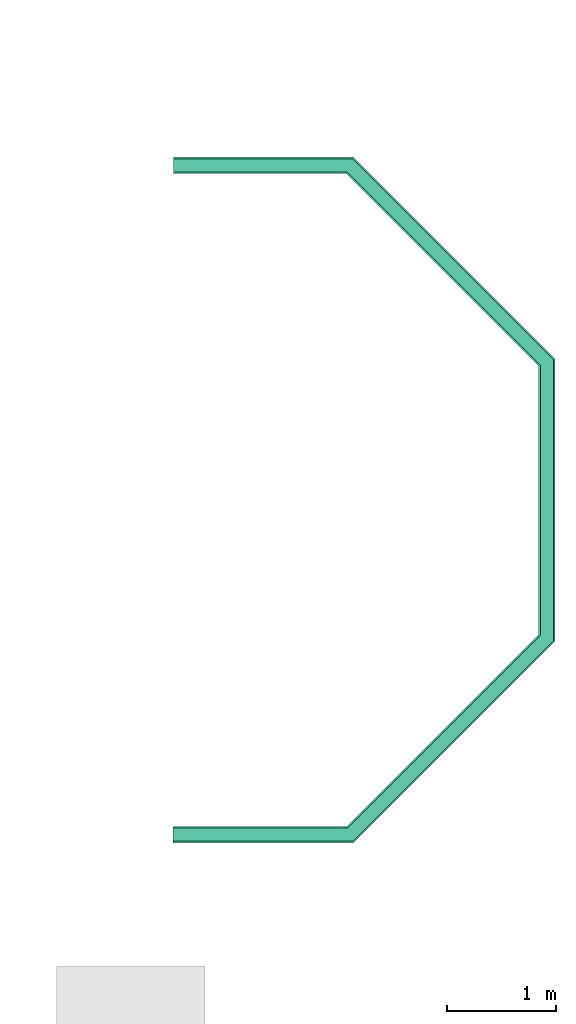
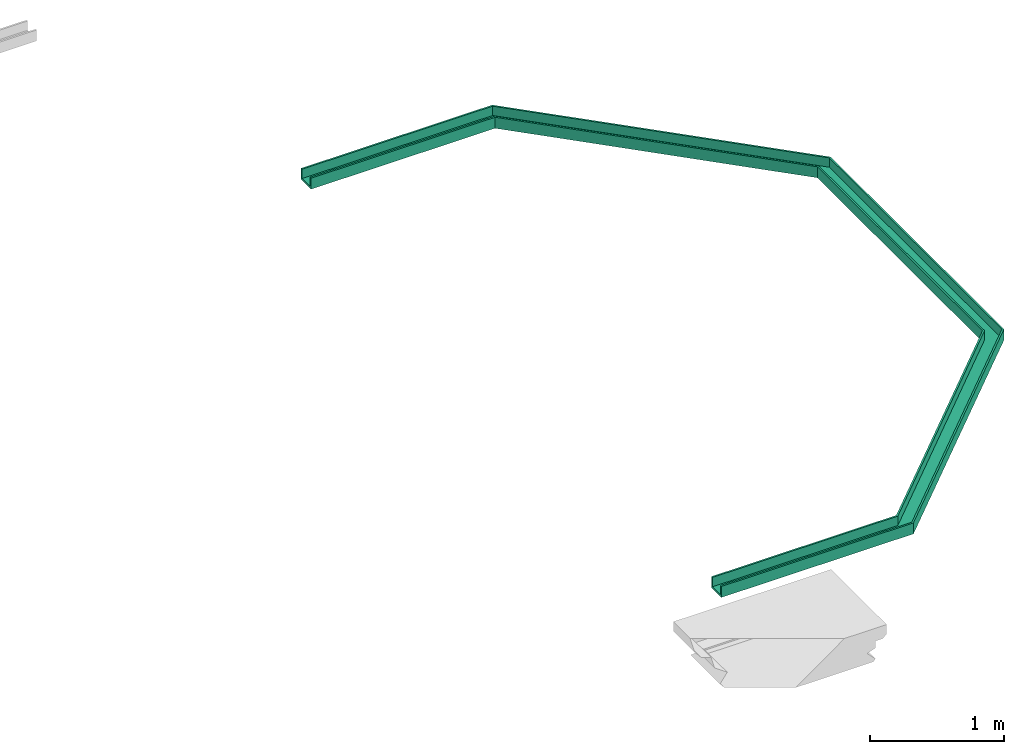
# One storey, part 2 of 4: 1 flow segment.
"""IFC2X3 building model written with IfcOpenShell, lengths in metres."""

from ifc_helpers import new_model, entity, si_unit, converted_unit, derived_unit, direction, frame, origin, place, context, subcontext, project, spatial, faceted_brep, source, transform, mapped, type_object, type_shapes, element, save


model = new_model("IFC2X3")

# Units and contexts
model_context = context("Model", 3, precision=1e-05, world=origin(), true_north=direction((6.12303176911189e-17, 1.0)))
plan_context = context("Plan", 3, precision=1e-05, world=origin(), true_north=direction((6.12303176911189e-17, 1.0)))
body_context = subcontext(model_context, "Body", "Model", "MODEL_VIEW")
ifc_project = project(units=[si_unit("LENGTHUNIT", "METRE"), si_unit("AREAUNIT", "SQUARE_METRE"), si_unit("VOLUMEUNIT", "CUBIC_METRE"), converted_unit("PLANEANGLEUNIT", "DEGREE", entity("IfcRatioMeasure", 0.0174532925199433), si_unit("PLANEANGLEUNIT", "RADIAN"), dimensions=[0, 0, 0, 0, 0, 0, 0]), si_unit("MASSUNIT", "GRAM", prefix="KILO"), derived_unit("MASSDENSITYUNIT", [(si_unit("MASSUNIT", "GRAM", prefix="KILO"), 1), (si_unit("LENGTHUNIT", "METRE"), -3)]), derived_unit("MOMENTOFINERTIAUNIT", [(si_unit("LENGTHUNIT", "METRE"), 4)]), si_unit("TIMEUNIT", "SECOND"), si_unit("FREQUENCYUNIT", "HERTZ"), si_unit("THERMODYNAMICTEMPERATUREUNIT", "DEGREE_CELSIUS"), derived_unit("THERMALTRANSMITTANCEUNIT", [(si_unit("MASSUNIT", "GRAM", prefix="KILO"), 1), (si_unit("THERMODYNAMICTEMPERATUREUNIT", "KELVIN"), -1), (si_unit("TIMEUNIT", "SECOND"), -3)]), derived_unit("VOLUMETRICFLOWRATEUNIT", [(si_unit("LENGTHUNIT", "METRE"), 3), (si_unit("TIMEUNIT", "SECOND"), -1)]), derived_unit("MASSFLOWRATEUNIT", [(si_unit("MASSUNIT", "GRAM", prefix="KILO"), 1), (si_unit("TIMEUNIT", "SECOND"), -1)]), derived_unit("ROTATIONALFREQUENCYUNIT", [(si_unit("TIMEUNIT", "SECOND"), -1)]), si_unit("ELECTRICCURRENTUNIT", "AMPERE"), si_unit("ELECTRICVOLTAGEUNIT", "VOLT"), si_unit("POWERUNIT", "WATT"), si_unit("FORCEUNIT", "NEWTON", prefix="KILO"), si_unit("ILLUMINANCEUNIT", "LUX"), si_unit("LUMINOUSFLUXUNIT", "LUMEN"), si_unit("LUMINOUSINTENSITYUNIT", "CANDELA"), derived_unit("USERDEFINED", [(si_unit("MASSUNIT", "GRAM", prefix="KILO"), -1), (si_unit("LENGTHUNIT", "METRE"), -2), (si_unit("TIMEUNIT", "SECOND"), 3), (si_unit("LUMINOUSFLUXUNIT", "LUMEN"), 1)]), derived_unit("SOUNDPOWERUNIT", [(si_unit("MASSUNIT", "GRAM", prefix="KILO"), 1), (si_unit("LENGTHUNIT", "METRE"), 2), (si_unit("TIMEUNIT", "SECOND"), -3)]), derived_unit("SOUNDPRESSUREUNIT", [(si_unit("MASSUNIT", "GRAM", prefix="KILO"), 1), (si_unit("LENGTHUNIT", "METRE"), -1), (si_unit("TIMEUNIT", "SECOND"), -2)]), derived_unit("LINEARVELOCITYUNIT", [(si_unit("LENGTHUNIT", "METRE"), 1), (si_unit("TIMEUNIT", "SECOND"), -1)]), si_unit("PRESSUREUNIT", "PASCAL"), derived_unit("USERDEFINED", [(si_unit("LENGTHUNIT", "METRE"), -2), (si_unit("MASSUNIT", "GRAM", prefix="KILO"), 1), (si_unit("TIMEUNIT", "SECOND"), -2)]), derived_unit("LINEARFORCEUNIT", [(si_unit("MASSUNIT", "GRAM", prefix="KILO"), 1), (si_unit("LENGTHUNIT", "METRE"), 1), (si_unit("TIMEUNIT", "SECOND"), -2), (si_unit("LENGTHUNIT", "METRE"), -1)]), derived_unit("PLANARFORCEUNIT", [(si_unit("MASSUNIT", "GRAM", prefix="KILO"), 1), (si_unit("LENGTHUNIT", "METRE"), 1), (si_unit("TIMEUNIT", "SECOND"), -2), (si_unit("LENGTHUNIT", "METRE"), -2)])], contexts=[model_context, plan_context])

# Site, building, storey
site_placement = place(None, frame((-11.0823275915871, 23.8300534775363, 0.0)))
site = spatial("IfcSite", under=ifc_project, at=site_placement, Name="Default", CompositionType="ELEMENT")
building_placement = place(site_placement, origin())
building = spatial("IfcBuilding", under=site, at=building_placement, Name="Englische Kirche", CompositionType="ELEMENT")
storey_placement = place(building_placement, frame((0.0, 0.0, 6.74999999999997)))
storey = spatial("IfcBuildingStorey", under=building, at=storey_placement, Name="Ebene 2 Gallery Stage 1", CompositionType="ELEMENT", Elevation=6.74999999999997)

# Flow segment
pipe_segment_type = type_object("IfcPipeSegmentType", Name="Rinne:Dachrinne 150 x 100:4041", PredefinedType="GUTTER")
shared_shape = source(origin(), body_context, "Body", "Brep", [
    faceted_brep([(3.49992757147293, 4.43133444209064, 0.0), (3.34992757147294, 4.36920240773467, 0.0), (1.58969247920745, 6.12943750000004, 0.0), (1.65182451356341, 6.27943750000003, 0.0), (3.49992757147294, 4.43133444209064, 0.100000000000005), (1.65182451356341, 6.27943750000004, 0.100000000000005), (3.48492757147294, 4.42512123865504, 0.100000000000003), (1.64561131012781, 6.26443750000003, 0.100000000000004), (3.48492757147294, 4.42512123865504, 0.0150000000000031), (1.64561131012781, 6.26443750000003, 0.0150000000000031), (3.36492757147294, 4.37541561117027, 0.0150000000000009), (1.59590568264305, 6.14443750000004, 0.0150000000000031), (3.36492757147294, 4.37541561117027, 0.100000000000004), (1.59590568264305, 6.14443750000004, 0.100000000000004), (3.34992757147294, 4.36920240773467, 0.100000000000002), (1.58969247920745, 6.12943750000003, 0.100000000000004), (0.00499999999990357, 6.12943750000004, 0.0), (0.00499999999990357, 6.12943750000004, 0.100000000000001), (0.00499999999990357, 6.14443750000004, 0.100000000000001), (0.00499999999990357, 6.14443750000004, 0.0149999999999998), (0.00499999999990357, 6.26443750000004, 0.0149999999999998), (0.00499999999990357, 6.26443750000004, 0.100000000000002), (0.00499999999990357, 6.27943750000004, 0.100000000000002), (0.00499999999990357, 6.27943750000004, 0.0), (3.49992757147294, 1.84527173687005, 0.0), (3.34992757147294, 1.90740377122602, 0.0), (3.49992757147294, 1.84527173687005, 0.100000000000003), (3.48492757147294, 1.85148494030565, 0.100000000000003), (3.48492757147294, 1.85148494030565, 0.0150000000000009), (3.36492757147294, 1.90119056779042, 0.0150000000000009), (3.36492757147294, 1.90119056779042, 0.100000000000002), (3.34992757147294, 1.90740377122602, 0.100000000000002), (1.65465583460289, 0.0, 0.0), (1.59252380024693, 0.150000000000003, 0.0), (1.65465583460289, 0.0, 0.100000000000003), (1.6484426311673, 0.0150000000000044, 0.100000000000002), (1.6484426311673, 0.0150000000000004, 0.0150000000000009), (1.59873700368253, 0.135000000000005, 0.0149999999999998), (1.59873700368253, 0.134999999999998, 0.100000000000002), (1.59252380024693, 0.150000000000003, 0.100000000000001), (0.0, 0.149999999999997, 0.0), (0.0, 0.0, 0.0), (0.0, 0.0, 0.100000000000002), (0.0, 0.0150000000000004, 0.100000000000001), (0.0, 0.0150000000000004, 0.0149999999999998), (0.0, 0.134999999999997, 0.0149999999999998), (0.0, 0.134999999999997, 0.100000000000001), (0.0, 0.149999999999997, 0.100000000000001)], [[[0, 1, 2, 3]], [[4, 0, 3, 5]], [[6, 4, 5, 7]], [[8, 6, 7, 9]], [[10, 8, 9, 11]], [[12, 10, 11, 13]], [[14, 12, 13, 15]], [[1, 14, 15, 2]], [[16, 17, 18, 19, 20, 21, 22, 23]], [[3, 2, 16, 23]], [[5, 3, 23, 22]], [[7, 5, 22, 21]], [[9, 7, 21, 20]], [[11, 9, 20, 19]], [[13, 11, 19, 18]], [[15, 13, 18, 17]], [[2, 15, 17, 16]], [[24, 25, 1, 0]], [[26, 24, 0, 4]], [[27, 26, 4, 6]], [[28, 27, 6, 8]], [[29, 28, 8, 10]], [[30, 29, 10, 12]], [[31, 30, 12, 14]], [[25, 31, 14, 1]], [[32, 33, 25, 24]], [[34, 32, 24, 26]], [[35, 34, 26, 27]], [[36, 35, 27, 28]], [[37, 36, 28, 29]], [[38, 37, 29, 30]], [[39, 38, 30, 31]], [[33, 39, 31, 25]], [[40, 41, 42, 43, 44, 45, 46, 47]], [[41, 40, 33, 32]], [[42, 41, 32, 34]], [[43, 42, 34, 35]], [[44, 43, 35, 36]], [[45, 44, 36, 37]], [[46, 45, 37, 38]], [[47, 46, 38, 39]], [[40, 47, 39, 33]]]),
])
type_shapes(pipe_segment_type, [shared_shape])
flow_segment_placement = place(storey_placement, frame((20.6101330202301, 1.71448098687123, 2.70131561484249)))
element("IfcFlowSegment", 1, at=flow_segment_placement, inside=storey, type_object=pipe_segment_type, Name="Rinne:Dachrinne 150 x 100", ObjectType="Rinne:Dachrinne 150 x 100", context=body_context, shape_type="MappedRepresentation", body=[
    mapped(shared_shape, transform((0.0, 0.0, 0.0), scale=1.0)),
])

save(model, "model.ifc")
